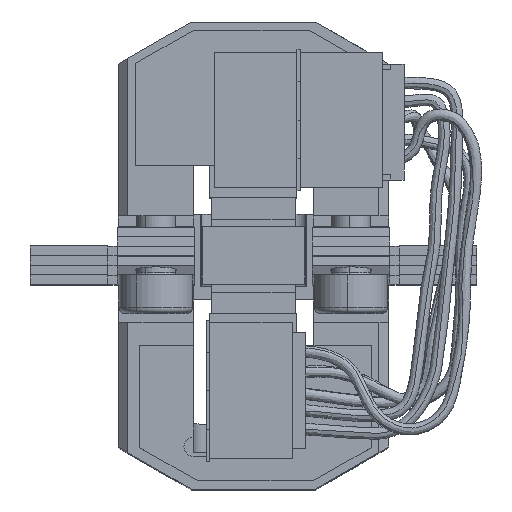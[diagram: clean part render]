
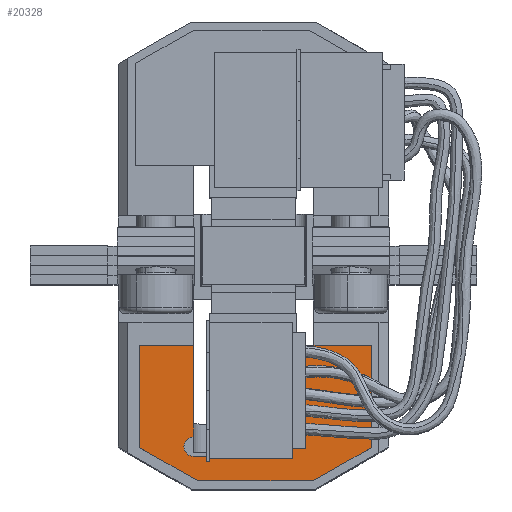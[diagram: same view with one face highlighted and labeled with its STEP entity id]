
A CAD part, top view. The second image highlights one B-rep face of the part: STEP entity #20328.
In plain terms, the highlighted planar face has unit normal (0, 0, 1).
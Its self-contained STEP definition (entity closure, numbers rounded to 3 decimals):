
#152 = DIRECTION ( 'NONE',  ( -1., 0., 0. ) ) ;
#221 = FACE_OUTER_BOUND ( 'NONE', #22972, .T. ) ;
#314 = CARTESIAN_POINT ( 'NONE',  ( 1.128, 10.8, 40.145 ) ) ;
#880 = VERTEX_POINT ( 'NONE', #3102 ) ;
#1015 = EDGE_CURVE ( 'NONE', #37742, #26771, #39162, .T. ) ;
#1844 = CIRCLE ( 'NONE', #16197, 0.5 ) ;
#2315 = CARTESIAN_POINT ( 'NONE',  ( 10.328, 16.05, 40.145 ) ) ;
#2464 = CARTESIAN_POINT ( 'NONE',  ( -1.672, 9.05, 40.145 ) ) ;
#2703 = DIRECTION ( 'NONE',  ( -0.87, 0.493, 0. ) ) ;
#3102 = CARTESIAN_POINT ( 'NONE',  ( 2.628, 11.3, 40.145 ) ) ;
#3993 = DIRECTION ( 'NONE',  ( -1., 0., 0. ) ) ;
#4593 = ORIENTED_EDGE ( 'NONE', *, *, #46958, .T. ) ;
#4998 = VECTOR ( 'NONE', #9761, 1000. ) ;
#5062 = CARTESIAN_POINT ( 'NONE',  ( 10.328, 10.75, 40.145 ) ) ;
#5214 = AXIS2_PLACEMENT_3D ( 'NONE', #314, #25684, #3993 ) ;
#5475 = LINE ( 'NONE', #24404, #33218 ) ;
#5883 = EDGE_CURVE ( 'NONE', #29396, #34952, #42109, .T. ) ;
#5919 = CARTESIAN_POINT ( 'NONE',  ( 1.128, 10.3, 40.145 ) ) ;
#5924 = CIRCLE ( 'NONE', #5214, 0.5 ) ;
#6242 = VECTOR ( 'NONE', #15041, 1000. ) ;
#6326 = AXIS2_PLACEMENT_3D ( 'NONE', #16487, #20144, #45478 ) ;
#6750 = VECTOR ( 'NONE', #13425, 1000. ) ;
#7681 = DIRECTION ( 'NONE',  ( 0., 0., -1. ) ) ;
#7733 = VERTEX_POINT ( 'NONE', #29251 ) ;
#9761 = DIRECTION ( 'NONE',  ( 0., -1., 0. ) ) ;
#10038 = CARTESIAN_POINT ( 'NONE',  ( 1.128, 11.3, 40.145 ) ) ;
#11413 = CARTESIAN_POINT ( 'NONE',  ( 10.328, 10.75, 40.145 ) ) ;
#12140 = ORIENTED_EDGE ( 'NONE', *, *, #29427, .F. ) ;
#12295 = EDGE_CURVE ( 'NONE', #7733, #12538, #5475, .T. ) ;
#12538 = VERTEX_POINT ( 'NONE', #18497 ) ;
#13337 = EDGE_CURVE ( 'NONE', #37742, #24824, #44512, .T. ) ;
#13425 = DIRECTION ( 'NONE',  ( -1., 0., 0. ) ) ;
#14295 = VECTOR ( 'NONE', #34864, 1000. ) ;
#15041 = DIRECTION ( 'NONE',  ( -0.87, -0.493, 0. ) ) ;
#15620 = VECTOR ( 'NONE', #27627, 1000. ) ;
#15899 = ORIENTED_EDGE ( 'NONE', *, *, #36143, .T. ) ;
#16124 = DIRECTION ( 'NONE',  ( 0., -1., 0. ) ) ;
#16197 = AXIS2_PLACEMENT_3D ( 'NONE', #29393, #7681, #33050 ) ;
#16367 = LINE ( 'NONE', #2315, #6750 ) ;
#16441 = CARTESIAN_POINT ( 'NONE',  ( 2.628, 16.05, 40.145 ) ) ;
#16487 = CARTESIAN_POINT ( 'NONE',  ( 10.328, 9.05, 40.145 ) ) ;
#16958 = VERTEX_POINT ( 'NONE', #30385 ) ;
#16992 = LINE ( 'NONE', #36430, #25509 ) ;
#18103 = CARTESIAN_POINT ( 'NONE',  ( 0.628, 10.8, 40.145 ) ) ;
#18172 = CARTESIAN_POINT ( 'NONE',  ( 2.628, 10.3, 40.145 ) ) ;
#18205 = ORIENTED_EDGE ( 'NONE', *, *, #33048, .T. ) ;
#18336 = ORIENTED_EDGE ( 'NONE', *, *, #45144, .T. ) ;
#18497 = CARTESIAN_POINT ( 'NONE',  ( -1.672, 10.75, 40.145 ) ) ;
#20144 = DIRECTION ( 'NONE',  ( 0., 0., -1. ) ) ;
#20328 = ADVANCED_FACE ( 'NONE', ( #221 ), #38207, .F. ) ;
#21715 = VERTEX_POINT ( 'NONE', #43353 ) ;
#21805 = EDGE_CURVE ( 'NONE', #880, #34952, #1844, .T. ) ;
#21810 = ORIENTED_EDGE ( 'NONE', *, *, #1015, .F. ) ;
#21874 = DIRECTION ( 'NONE',  ( 0., 0., -1. ) ) ;
#22449 = ORIENTED_EDGE ( 'NONE', *, *, #13337, .T. ) ;
#22972 = EDGE_LOOP ( 'NONE', ( #45772, #21810, #22449, #12140, #39525, #32598, #18336, #4593, #24124, #18205, #15899, #43549, #40324 ) ) ;
#23916 = VERTEX_POINT ( 'NONE', #18103 ) ;
#24124 = ORIENTED_EDGE ( 'NONE', *, *, #32296, .F. ) ;
#24404 = CARTESIAN_POINT ( 'NONE',  ( -1.672, 10.75, 40.145 ) ) ;
#24824 = VERTEX_POINT ( 'NONE', #16441 ) ;
#25309 = CARTESIAN_POINT ( 'NONE',  ( 1.128, 10.3, 40.145 ) ) ;
#25375 = LINE ( 'NONE', #2464, #4998 ) ;
#25509 = VECTOR ( 'NONE', #25679, 1000. ) ;
#25679 = DIRECTION ( 'NONE',  ( -1., 0., 0. ) ) ;
#25684 = DIRECTION ( 'NONE',  ( 0., 0., -1. ) ) ;
#26771 = VERTEX_POINT ( 'NONE', #5062 ) ;
#27627 = DIRECTION ( 'NONE',  ( -1., 0., 0. ) ) ;
#29109 = DIRECTION ( 'NONE',  ( 0., 1., 0. ) ) ;
#29251 = CARTESIAN_POINT ( 'NONE',  ( 1.328, 9.05, 40.145 ) ) ;
#29393 = CARTESIAN_POINT ( 'NONE',  ( 2.628, 10.8, 40.145 ) ) ;
#29396 = VERTEX_POINT ( 'NONE', #25309 ) ;
#29427 = EDGE_CURVE ( 'NONE', #880, #24824, #45609, .T. ) ;
#29508 = VECTOR ( 'NONE', #33856, 1000. ) ;
#29628 = CARTESIAN_POINT ( 'NONE',  ( 1.128, 16.05, 40.145 ) ) ;
#30066 = LINE ( 'NONE', #41533, #38565 ) ;
#30385 = CARTESIAN_POINT ( 'NONE',  ( 7.328, 9.05, 40.145 ) ) ;
#31288 = CARTESIAN_POINT ( 'NONE',  ( 10.328, 16.05, 40.145 ) ) ;
#31725 = VERTEX_POINT ( 'NONE', #10038 ) ;
#32132 = VERTEX_POINT ( 'NONE', #29628 ) ;
#32296 = EDGE_CURVE ( 'NONE', #32132, #31725, #30066, .T. ) ;
#32315 = CIRCLE ( 'NONE', #40194, 0.5 ) ;
#32598 = ORIENTED_EDGE ( 'NONE', *, *, #5883, .F. ) ;
#33048 = EDGE_CURVE ( 'NONE', #32132, #21715, #16367, .T. ) ;
#33050 = DIRECTION ( 'NONE',  ( -1., 0., 0. ) ) ;
#33218 = VECTOR ( 'NONE', #2703, 1000. ) ;
#33856 = DIRECTION ( 'NONE',  ( 0., -1., 0. ) ) ;
#34864 = DIRECTION ( 'NONE',  ( 1., 0., 0. ) ) ;
#34952 = VERTEX_POINT ( 'NONE', #39166 ) ;
#35112 = LINE ( 'NONE', #11413, #6242 ) ;
#35121 = EDGE_CURVE ( 'NONE', #16958, #7733, #16992, .T. ) ;
#36143 = EDGE_CURVE ( 'NONE', #21715, #12538, #25375, .T. ) ;
#36430 = CARTESIAN_POINT ( 'NONE',  ( 10.328, 9.05, 40.145 ) ) ;
#36529 = CARTESIAN_POINT ( 'NONE',  ( 10.328, 9.05, 40.145 ) ) ;
#36672 = CARTESIAN_POINT ( 'NONE',  ( 10.328, 16.05, 40.145 ) ) ;
#37742 = VERTEX_POINT ( 'NONE', #36672 ) ;
#38207 = PLANE ( 'NONE',  #6326 ) ;
#38565 = VECTOR ( 'NONE', #16124, 1000. ) ;
#39162 = LINE ( 'NONE', #36529, #29508 ) ;
#39166 = CARTESIAN_POINT ( 'NONE',  ( 2.628, 10.3, 40.145 ) ) ;
#39525 = ORIENTED_EDGE ( 'NONE', *, *, #21805, .T. ) ;
#40194 = AXIS2_PLACEMENT_3D ( 'NONE', #43585, #21874, #152 ) ;
#40324 = ORIENTED_EDGE ( 'NONE', *, *, #35121, .F. ) ;
#41533 = CARTESIAN_POINT ( 'NONE',  ( 1.128, 16.05, 40.145 ) ) ;
#42109 = LINE ( 'NONE', #5919, #14295 ) ;
#43353 = CARTESIAN_POINT ( 'NONE',  ( -1.672, 16.05, 40.145 ) ) ;
#43370 = VECTOR ( 'NONE', #29109, 1000. ) ;
#43549 = ORIENTED_EDGE ( 'NONE', *, *, #12295, .F. ) ;
#43585 = CARTESIAN_POINT ( 'NONE',  ( 1.128, 10.8, 40.145 ) ) ;
#44512 = LINE ( 'NONE', #31288, #15620 ) ;
#45144 = EDGE_CURVE ( 'NONE', #29396, #23916, #5924, .T. ) ;
#45478 = DIRECTION ( 'NONE',  ( -1., 0., 0. ) ) ;
#45609 = LINE ( 'NONE', #18172, #43370 ) ;
#45772 = ORIENTED_EDGE ( 'NONE', *, *, #47032, .F. ) ;
#46958 = EDGE_CURVE ( 'NONE', #23916, #31725, #32315, .T. ) ;
#47032 = EDGE_CURVE ( 'NONE', #26771, #16958, #35112, .T. ) ;
